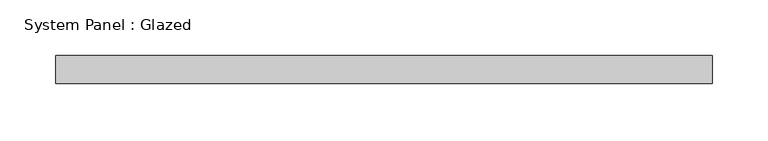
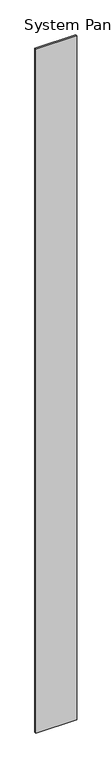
"""IFC4 building model written with IfcOpenShell, lengths in millimetres: plate geometry, System Panel : Glazed."""

from ifc_helpers import new_model, si_unit, origin, origin_with_axes, place, context, project, spatial, polyline, outline, extrude, source, transform, mapped, element, save


def system_panel_glazed_138f9669(model_context):
    return source(origin(), model_context, "Body", "SweptSolid", [
        extrude(outline(polyline([(294.9, -12.5), (-294.9, -12.5), (-294.9, 12.5), (294.9, 12.5), (294.9, -12.5)])), origin_with_axes(), (0.0, 0.0, 1.0), 10400.0),
    ])


if __name__ == "__main__":
    model = new_model("IFC4")
    model_context = context("Model", 3, world=origin())
    ifc_project = project(units=[si_unit("LENGTHUNIT", "METRE", prefix="MILLI")], contexts=[model_context])
    site = spatial("IfcSite", under=ifc_project)
    building = spatial("IfcBuilding", under=site)
    placement = place(None, origin())
    system_panel_glazed_shape = system_panel_glazed_138f9669(model_context)
    element("IfcPlate", 1, ObjectType="System Panel : Glazed", at=placement, inside=building, context=model_context, shape_type="MappedRepresentation", body=[
        mapped(system_panel_glazed_shape, transform((0.0, 0.0, 0.0), x_axis=(1.0, 0.0, 0.0), y_axis=(0.0, 1.0, 0.0), z_axis=(0.0, 0.0, 1.0))),
    ])
    save(model, "model.ifc")
